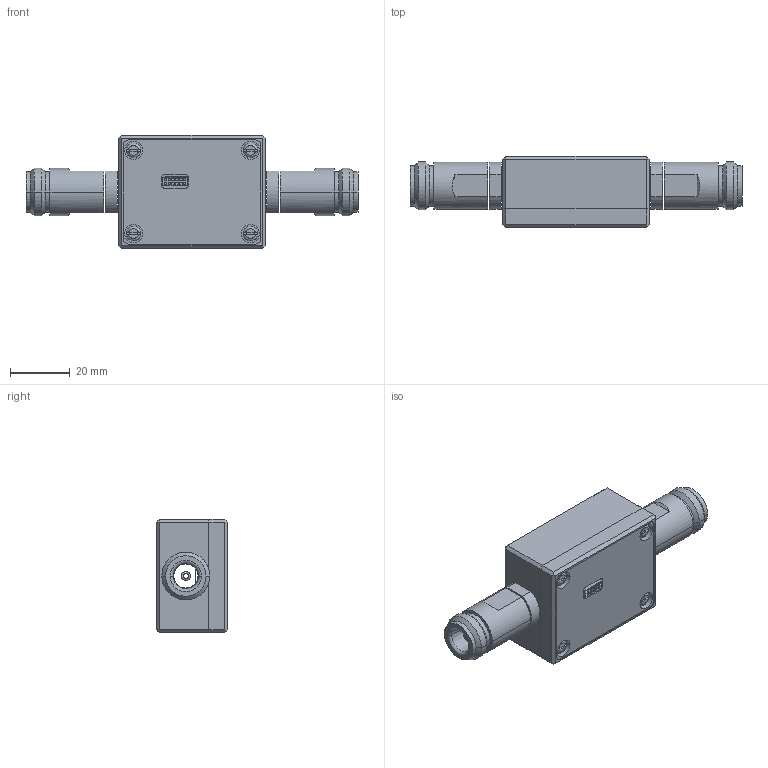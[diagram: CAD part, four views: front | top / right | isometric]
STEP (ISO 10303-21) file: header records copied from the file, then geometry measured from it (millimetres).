
FILE_DESCRIPTION (( 'STEP AP203' ), '1' );
FILE_NAME ('R0346.00.000-01 ACM6000T mod.011.STEP', '2020-06-10T09:16:29', ( '' ), ( '' ), 'SwSTEP 2.0', 'SolidWorks 2014', '' );
FILE_SCHEMA (( 'CONFIG_CONTROL_DESIGN' ));
Length unit declared in the file: millimetre
Products named in the file (1): R0346.00.000-01 ACM6000T mod.011
Bounding box: 110.78 x 23.8 x 37.8 mm (x, y, z)
Surface area: 13958.9 mm2 (no closed solid volume)
Topology: 0 solids, 35 shells, 482 faces, 1614 edges, 1172 vertices
Faces by surface type: plane 352, cylinder 67, cone 49, torus 12, bspline 2
Entity records: 17745 total; most frequent: CARTESIAN_POINT 4202, DIRECTION 2674, ORIENTED_EDGE 2468, EDGE_CURVE 1614, VERTEX_POINT 1172, LINE 1062, VECTOR 1062, AXIS2_PLACEMENT_3D 806
